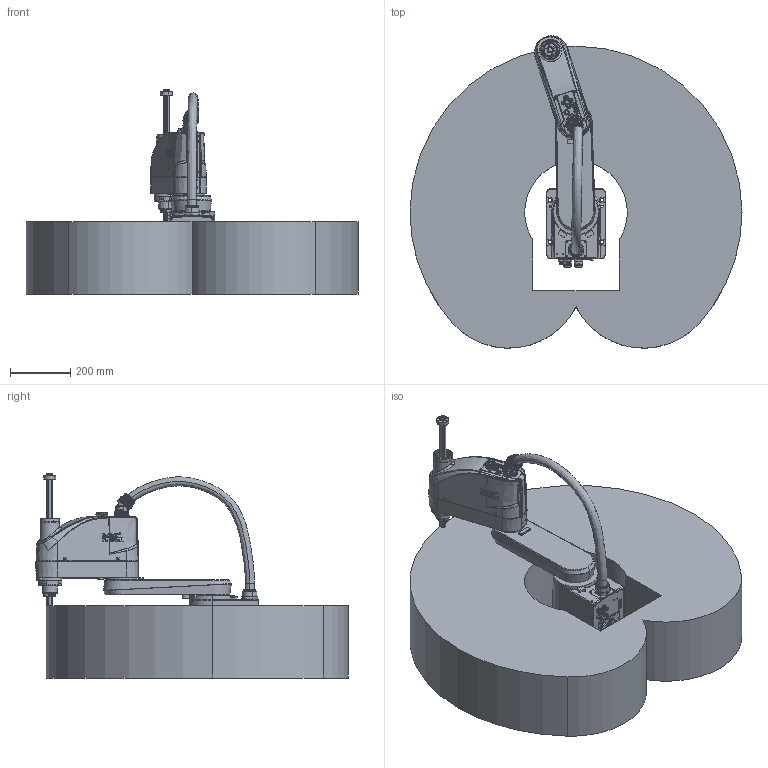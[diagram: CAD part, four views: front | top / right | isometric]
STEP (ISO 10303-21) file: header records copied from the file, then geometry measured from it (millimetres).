
FILE_DESCRIPTION (( 'STEP AP203' ), '1' );
FILE_NAME ('1.220B6.00.000.G Python550-B6 .STEP', '2025-06-24T09:06:22', ( '' ), ( '' ), 'SwSTEP 2.0', 'SolidWorks 2021', '' );
FILE_SCHEMA (( 'CONFIG_CONTROL_DESIGN' ));
Length unit declared in the file: millimetre
Products named in the file (9): 葩璃 1.910B6.00.101.0^葩璃 豪瑩粣_1.220B6.00.000.G Python550-B6 ; 复件 复件 Python-B6新外观滚珠丝杆花键轴装配体^复件 花键轴_1.220B6.00.000.G Python550-B6 ; 复件 Python550-B6新外观大臂装配体^1.220B6.00.000.G Python550-B6 ; 复件 Python-B6新外观底座装配体^1.220B6.00.000.G Python550-B6 ; 复件 Python-B6新外观小臂装配体^1.220B6.00.000.G Python550-B6 ; 1.220B6.00.000.G Python550-B6 ; 葩璃 Python550-疏恇奪^1.220B6.00.000.G Python550-B6 ; 复件 Python550-B6铸件工作空间^1.220B6.00.000.G Python550-B6 ; 葩璃 豪瑩粣^1.220B6.00.000.G Python550-B6 
Assembly tree (8 placements, depth 3):
  1.220B6.00.000.G Python550-B6 
    复件 Python-B6新外观底座装配体^1.220B6.00.000.G Python550-B6 
    复件 Python550-B6新外观大臂装配体^1.220B6.00.000.G Python550-B6 
    复件 Python-B6新外观小臂装配体^1.220B6.00.000.G Python550-B6 
    葩璃 豪瑩粣^1.220B6.00.000.G Python550-B6 
      复件 复件 Python-B6新外观滚珠丝杆花键轴装配体^复件 花键轴_1.220B6.00.000.G Python550-B6 
      葩璃 1.910B6.00.101.0^葩璃 豪瑩粣_1.220B6.00.000.G Python550-B6 
    复件 Python550-B6铸件工作空间^1.220B6.00.000.G Python550-B6 
    葩璃 Python550-疏恇奪^1.220B6.00.000.G Python550-B6 
Bounding box: 1100 x 1034.74 x 676 mm (x, y, z)
Volume: 194625755.5 mm3; surface area: 3802462.5 mm2
Topology: 62 solids, 62 shells, 3079 faces, 7858 edges, 5050 vertices
Faces by surface type: cylinder 1047, plane 923, bspline 556, cone 411, torus 122, sphere 20
Entity records: 152466 total; most frequent: CARTESIAN_POINT 80896, ORIENTED_EDGE 15624, DIRECTION 13317, EDGE_CURVE 7812, AXIS2_PLACEMENT_3D 5272, VERTEX_POINT 5048, EDGE_LOOP 3544, FACE_OUTER_BOUND 3079
